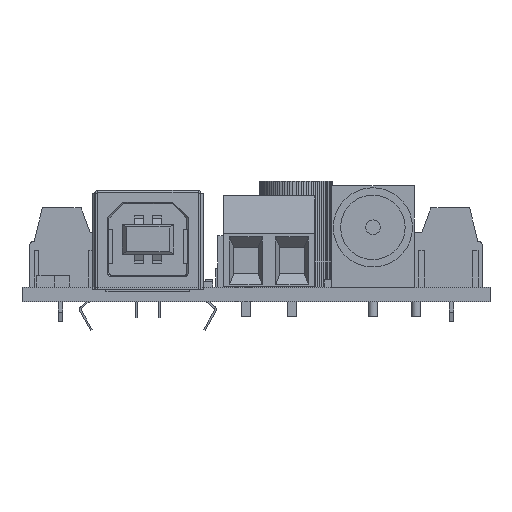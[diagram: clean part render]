
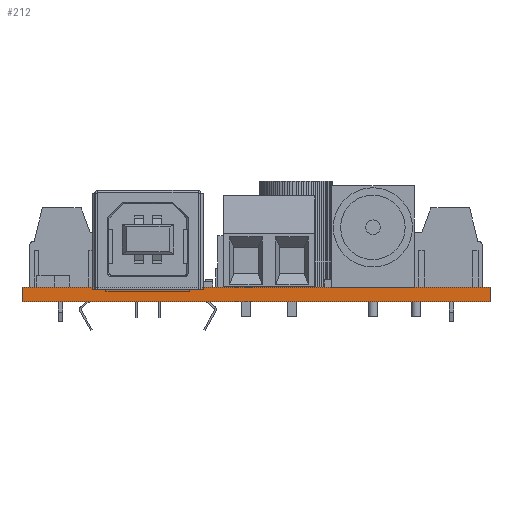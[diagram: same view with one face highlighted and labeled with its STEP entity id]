
A CAD part, front view. The second image highlights one B-rep face of the part: STEP entity #212.
In plain terms, the highlighted planar face has unit normal (0, -1, 0).
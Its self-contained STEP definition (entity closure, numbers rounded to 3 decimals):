
#212 = ADVANCED_FACE('',(#213),#227,.F.);
#213 = FACE_BOUND('',#214,.F.);
#214 = EDGE_LOOP('',(#215,#250,#278,#306));
#215 = ORIENTED_EDGE('',*,*,#216,.T.);
#216 = EDGE_CURVE('',#217,#219,#221,.T.);
#217 = VERTEX_POINT('',#218);
#218 = CARTESIAN_POINT('',(0.,0.,0.));
#219 = VERTEX_POINT('',#220);
#220 = CARTESIAN_POINT('',(0.,0.,1.6));
#221 = SURFACE_CURVE('',#222,(#226,#238),.PCURVE_S1.);
#222 = LINE('',#223,#224);
#223 = CARTESIAN_POINT('',(0.,0.,0.));
#224 = VECTOR('',#225,1.);
#225 = DIRECTION('',(0.,0.,1.));
#226 = PCURVE('',#227,#232);
#227 = PLANE('',#228);
#228 = AXIS2_PLACEMENT_3D('',#229,#230,#231);
#229 = CARTESIAN_POINT('',(0.,0.,0.));
#230 = DIRECTION('',(0.,1.,0.));
#231 = DIRECTION('',(1.,0.,0.));
#232 = DEFINITIONAL_REPRESENTATION('',(#233),#237);
#233 = LINE('',#234,#235);
#234 = CARTESIAN_POINT('',(0.,0.));
#235 = VECTOR('',#236,1.);
#236 = DIRECTION('',(0.,-1.));
#237 = ( GEOMETRIC_REPRESENTATION_CONTEXT(2) 
PARAMETRIC_REPRESENTATION_CONTEXT() REPRESENTATION_CONTEXT('2D SPACE',''
  ) );
#238 = PCURVE('',#239,#244);
#239 = PLANE('',#240);
#240 = AXIS2_PLACEMENT_3D('',#241,#242,#243);
#241 = CARTESIAN_POINT('',(0.,71.12,0.));
#242 = DIRECTION('',(1.,0.,0.));
#243 = DIRECTION('',(0.,-1.,0.));
#244 = DEFINITIONAL_REPRESENTATION('',(#245),#249);
#245 = LINE('',#246,#247);
#246 = CARTESIAN_POINT('',(71.12,0.));
#247 = VECTOR('',#248,1.);
#248 = DIRECTION('',(0.,-1.));
#249 = ( GEOMETRIC_REPRESENTATION_CONTEXT(2) 
PARAMETRIC_REPRESENTATION_CONTEXT() REPRESENTATION_CONTEXT('2D SPACE',''
  ) );
#250 = ORIENTED_EDGE('',*,*,#251,.T.);
#251 = EDGE_CURVE('',#219,#252,#254,.T.);
#252 = VERTEX_POINT('',#253);
#253 = CARTESIAN_POINT('',(50.8,0.,1.6));
#254 = SURFACE_CURVE('',#255,(#259,#266),.PCURVE_S1.);
#255 = LINE('',#256,#257);
#256 = CARTESIAN_POINT('',(0.,0.,1.6));
#257 = VECTOR('',#258,1.);
#258 = DIRECTION('',(1.,0.,0.));
#259 = PCURVE('',#227,#260);
#260 = DEFINITIONAL_REPRESENTATION('',(#261),#265);
#261 = LINE('',#262,#263);
#262 = CARTESIAN_POINT('',(0.,-1.6));
#263 = VECTOR('',#264,1.);
#264 = DIRECTION('',(1.,0.));
#265 = ( GEOMETRIC_REPRESENTATION_CONTEXT(2) 
PARAMETRIC_REPRESENTATION_CONTEXT() REPRESENTATION_CONTEXT('2D SPACE',''
  ) );
#266 = PCURVE('',#267,#272);
#267 = PLANE('',#268);
#268 = AXIS2_PLACEMENT_3D('',#269,#270,#271);
#269 = CARTESIAN_POINT('',(0.,0.,1.6));
#270 = DIRECTION('',(0.,0.,-1.));
#271 = DIRECTION('',(-1.,0.,0.));
#272 = DEFINITIONAL_REPRESENTATION('',(#273),#277);
#273 = LINE('',#274,#275);
#274 = CARTESIAN_POINT('',(0.,0.));
#275 = VECTOR('',#276,1.);
#276 = DIRECTION('',(-1.,0.));
#277 = ( GEOMETRIC_REPRESENTATION_CONTEXT(2) 
PARAMETRIC_REPRESENTATION_CONTEXT() REPRESENTATION_CONTEXT('2D SPACE',''
  ) );
#278 = ORIENTED_EDGE('',*,*,#279,.F.);
#279 = EDGE_CURVE('',#280,#252,#282,.T.);
#280 = VERTEX_POINT('',#281);
#281 = CARTESIAN_POINT('',(50.8,0.,0.));
#282 = SURFACE_CURVE('',#283,(#287,#294),.PCURVE_S1.);
#283 = LINE('',#284,#285);
#284 = CARTESIAN_POINT('',(50.8,0.,0.));
#285 = VECTOR('',#286,1.);
#286 = DIRECTION('',(0.,0.,1.));
#287 = PCURVE('',#227,#288);
#288 = DEFINITIONAL_REPRESENTATION('',(#289),#293);
#289 = LINE('',#290,#291);
#290 = CARTESIAN_POINT('',(50.8,0.));
#291 = VECTOR('',#292,1.);
#292 = DIRECTION('',(0.,-1.));
#293 = ( GEOMETRIC_REPRESENTATION_CONTEXT(2) 
PARAMETRIC_REPRESENTATION_CONTEXT() REPRESENTATION_CONTEXT('2D SPACE',''
  ) );
#294 = PCURVE('',#295,#300);
#295 = PLANE('',#296);
#296 = AXIS2_PLACEMENT_3D('',#297,#298,#299);
#297 = CARTESIAN_POINT('',(50.8,0.,0.));
#298 = DIRECTION('',(-1.,0.,0.));
#299 = DIRECTION('',(0.,1.,0.));
#300 = DEFINITIONAL_REPRESENTATION('',(#301),#305);
#301 = LINE('',#302,#303);
#302 = CARTESIAN_POINT('',(0.,0.));
#303 = VECTOR('',#304,1.);
#304 = DIRECTION('',(0.,-1.));
#305 = ( GEOMETRIC_REPRESENTATION_CONTEXT(2) 
PARAMETRIC_REPRESENTATION_CONTEXT() REPRESENTATION_CONTEXT('2D SPACE',''
  ) );
#306 = ORIENTED_EDGE('',*,*,#307,.F.);
#307 = EDGE_CURVE('',#217,#280,#308,.T.);
#308 = SURFACE_CURVE('',#309,(#313,#320),.PCURVE_S1.);
#309 = LINE('',#310,#311);
#310 = CARTESIAN_POINT('',(0.,0.,0.));
#311 = VECTOR('',#312,1.);
#312 = DIRECTION('',(1.,0.,0.));
#313 = PCURVE('',#227,#314);
#314 = DEFINITIONAL_REPRESENTATION('',(#315),#319);
#315 = LINE('',#316,#317);
#316 = CARTESIAN_POINT('',(0.,0.));
#317 = VECTOR('',#318,1.);
#318 = DIRECTION('',(1.,0.));
#319 = ( GEOMETRIC_REPRESENTATION_CONTEXT(2) 
PARAMETRIC_REPRESENTATION_CONTEXT() REPRESENTATION_CONTEXT('2D SPACE',''
  ) );
#320 = PCURVE('',#321,#326);
#321 = PLANE('',#322);
#322 = AXIS2_PLACEMENT_3D('',#323,#324,#325);
#323 = CARTESIAN_POINT('',(0.,0.,0.));
#324 = DIRECTION('',(0.,0.,-1.));
#325 = DIRECTION('',(-1.,0.,0.));
#326 = DEFINITIONAL_REPRESENTATION('',(#327),#331);
#327 = LINE('',#328,#329);
#328 = CARTESIAN_POINT('',(0.,0.));
#329 = VECTOR('',#330,1.);
#330 = DIRECTION('',(-1.,0.));
#331 = ( GEOMETRIC_REPRESENTATION_CONTEXT(2) 
PARAMETRIC_REPRESENTATION_CONTEXT() REPRESENTATION_CONTEXT('2D SPACE',''
  ) );
